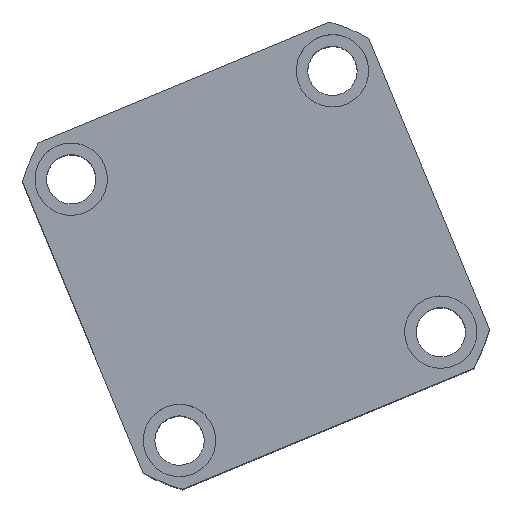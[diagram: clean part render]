
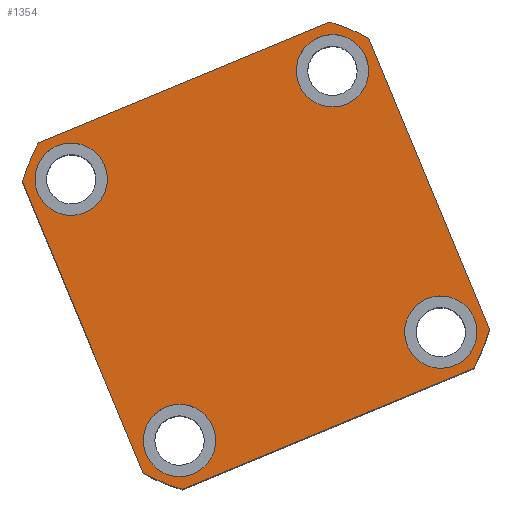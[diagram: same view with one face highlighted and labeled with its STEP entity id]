
A CAD part, top view. The second image highlights one B-rep face of the part: STEP entity #1354.
In plain terms, the highlighted planar face has unit normal (0, 0, 1) as drawn and (0, 0, -1) by its records, which use the part's own axes.
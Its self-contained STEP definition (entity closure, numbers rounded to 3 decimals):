
#281 = AXIS2_PLACEMENT_3D ( 'NONE', #3899, #12018, #5023 ) ;
#288 = DIRECTION ( 'NONE',  ( -1., 0., 0. ) ) ;
#492 = DIRECTION ( 'NONE',  ( 0., 0., -1. ) ) ;
#533 = FACE_OUTER_BOUND ( 'NONE', #6297, .T. ) ;
#764 = ORIENTED_EDGE ( 'NONE', *, *, #12416, .F. ) ;
#765 = VERTEX_POINT ( 'NONE', #9527 ) ;
#801 = DIRECTION ( 'NONE',  ( -1., 0., 0. ) ) ;
#806 = DIRECTION ( 'NONE',  ( 0., 0., -1. ) ) ;
#814 = DIRECTION ( 'NONE',  ( 0., 0., -1. ) ) ;
#898 = CARTESIAN_POINT ( 'NONE',  ( -54., 43., 0. ) ) ;
#900 = CARTESIAN_POINT ( 'NONE',  ( -43., 43., 0. ) ) ;
#1002 = DIRECTION ( 'NONE',  ( 0., 0., 1. ) ) ;
#1104 = ORIENTED_EDGE ( 'NONE', *, *, #8032, .F. ) ;
#1354 = ADVANCED_FACE ( 'NONE', ( #4062, #9809, #3688, #12980, #533 ), #11087, .F. ) ;
#1423 = AXIS2_PLACEMENT_3D ( 'NONE', #9486, #2587, #10671 ) ;
#1466 = EDGE_CURVE ( 'NONE', #7072, #5667, #5956, .T. ) ;
#1719 = VERTEX_POINT ( 'NONE', #898 ) ;
#2098 = ORIENTED_EDGE ( 'NONE', *, *, #2409, .F. ) ;
#2409 = EDGE_CURVE ( 'NONE', #1719, #12058, #11876, .T. ) ;
#2587 = DIRECTION ( 'NONE',  ( 0., 0., 1. ) ) ;
#2802 = VECTOR ( 'NONE', #10259, 1000. ) ;
#2837 = ORIENTED_EDGE ( 'NONE', *, *, #8656, .F. ) ;
#3088 = CIRCLE ( 'NONE', #8798, 11. ) ;
#3199 = ORIENTED_EDGE ( 'NONE', *, *, #1466, .F. ) ;
#3366 = ORIENTED_EDGE ( 'NONE', *, *, #6479, .F. ) ;
#3381 = EDGE_CURVE ( 'NONE', #9988, #3382, #14664, .T. ) ;
#3382 = VERTEX_POINT ( 'NONE', #7944 ) ;
#3581 = CARTESIAN_POINT ( 'NONE',  ( 47.971, 57., 0. ) ) ;
#3633 = CARTESIAN_POINT ( 'NONE',  ( -43., 43., 0. ) ) ;
#3688 = FACE_BOUND ( 'NONE', #7772, .T. ) ;
#3748 = EDGE_CURVE ( 'NONE', #7662, #9946, #9986, .T. ) ;
#3826 = EDGE_CURVE ( 'NONE', #15078, #13112, #9256, .T. ) ;
#3872 = VECTOR ( 'NONE', #11302, 1000. ) ;
#3873 = DIRECTION ( 'NONE',  ( 0., 0., -1. ) ) ;
#3899 = CARTESIAN_POINT ( 'NONE',  ( 43., -43., 0. ) ) ;
#3945 = AXIS2_PLACEMENT_3D ( 'NONE', #3633, #11746, #4773 ) ;
#3952 = AXIS2_PLACEMENT_3D ( 'NONE', #11502, #11507, #11521 ) ;
#4062 = FACE_BOUND ( 'NONE', #5453, .T. ) ;
#4171 = CARTESIAN_POINT ( 'NONE',  ( 0., 0., 0. ) ) ;
#4229 = VECTOR ( 'NONE', #12812, 1000. ) ;
#4325 = EDGE_CURVE ( 'NONE', #8094, #15078, #11478, .T. ) ;
#4367 = AXIS2_PLACEMENT_3D ( 'NONE', #6857, #6811, #6757 ) ;
#4719 = AXIS2_PLACEMENT_3D ( 'NONE', #8037, #492, #288 ) ;
#4735 = CARTESIAN_POINT ( 'NONE',  ( 0., 0., 0. ) ) ;
#4773 = DIRECTION ( 'NONE',  ( -1., 0., 0. ) ) ;
#4909 = CARTESIAN_POINT ( 'NONE',  ( -47.971, -57., 0. ) ) ;
#4929 = CIRCLE ( 'NONE', #281, 11. ) ;
#4944 = ORIENTED_EDGE ( 'NONE', *, *, #3826, .F. ) ;
#5023 = DIRECTION ( 'NONE',  ( -1., 0., 0. ) ) ;
#5203 = CIRCLE ( 'NONE', #3945, 11. ) ;
#5278 = DIRECTION ( 'NONE',  ( 1., 0., 0. ) ) ;
#5376 = CIRCLE ( 'NONE', #10374, 74.5 ) ;
#5453 = EDGE_LOOP ( 'NONE', ( #9107, #8359 ) ) ;
#5667 = VERTEX_POINT ( 'NONE', #10336 ) ;
#5849 = DIRECTION ( 'NONE',  ( 1., 0., 0. ) ) ;
#5925 = VERTEX_POINT ( 'NONE', #4909 ) ;
#5956 = CIRCLE ( 'NONE', #8536, 11. ) ;
#6151 = ORIENTED_EDGE ( 'NONE', *, *, #6634, .F. ) ;
#6297 = EDGE_LOOP ( 'NONE', ( #6768, #2837, #1104, #8102, #11694, #8481, #6151, #4944 ) ) ;
#6479 = EDGE_CURVE ( 'NONE', #5667, #7072, #3088, .T. ) ;
#6582 = CARTESIAN_POINT ( 'NONE',  ( 57., -47.971, 0. ) ) ;
#6634 = EDGE_CURVE ( 'NONE', #13112, #7662, #5376, .T. ) ;
#6757 = DIRECTION ( 'NONE',  ( -1., 0., 0. ) ) ;
#6768 = ORIENTED_EDGE ( 'NONE', *, *, #4325, .F. ) ;
#6811 = DIRECTION ( 'NONE',  ( 0., 0., -1. ) ) ;
#6857 = CARTESIAN_POINT ( 'NONE',  ( -43., -43., 0. ) ) ;
#6861 = EDGE_CURVE ( 'NONE', #9946, #5925, #7330, .T. ) ;
#6944 = CARTESIAN_POINT ( 'NONE',  ( -57., -47.971, 0. ) ) ;
#7072 = VERTEX_POINT ( 'NONE', #13057 ) ;
#7330 = CIRCLE ( 'NONE', #11806, 74.5 ) ;
#7662 = VERTEX_POINT ( 'NONE', #14454 ) ;
#7739 = CARTESIAN_POINT ( 'NONE',  ( -43., -43., 0. ) ) ;
#7772 = EDGE_LOOP ( 'NONE', ( #3366, #3199 ) ) ;
#7926 = CARTESIAN_POINT ( 'NONE',  ( 0., 0., 0. ) ) ;
#7944 = CARTESIAN_POINT ( 'NONE',  ( -32., -43., 0. ) ) ;
#8032 = EDGE_CURVE ( 'NONE', #12001, #8067, #11792, .T. ) ;
#8037 = CARTESIAN_POINT ( 'NONE',  ( 43., -43., 0. ) ) ;
#8067 = VERTEX_POINT ( 'NONE', #6582 ) ;
#8094 = VERTEX_POINT ( 'NONE', #11593 ) ;
#8102 = ORIENTED_EDGE ( 'NONE', *, *, #13436, .F. ) ;
#8134 = EDGE_CURVE ( 'NONE', #12058, #1719, #5203, .T. ) ;
#8279 = ORIENTED_EDGE ( 'NONE', *, *, #8134, .F. ) ;
#8359 = ORIENTED_EDGE ( 'NONE', *, *, #9425, .F. ) ;
#8481 = ORIENTED_EDGE ( 'NONE', *, *, #3748, .F. ) ;
#8536 = AXIS2_PLACEMENT_3D ( 'NONE', #12183, #12200, #12214 ) ;
#8656 = EDGE_CURVE ( 'NONE', #8067, #8094, #12739, .T. ) ;
#8657 = VERTEX_POINT ( 'NONE', #11323 ) ;
#8748 = AXIS2_PLACEMENT_3D ( 'NONE', #900, #814, #801 ) ;
#8769 = CARTESIAN_POINT ( 'NONE',  ( -47.971, 57., 0. ) ) ;
#8798 = AXIS2_PLACEMENT_3D ( 'NONE', #10793, #3873, #11993 ) ;
#8918 = DIRECTION ( 'NONE',  ( -1., 0., 0. ) ) ;
#8983 = DIRECTION ( 'NONE',  ( 0., 1., 0. ) ) ;
#9104 = DIRECTION ( 'NONE',  ( 1., 0., 0. ) ) ;
#9107 = ORIENTED_EDGE ( 'NONE', *, *, #3381, .F. ) ;
#9123 = CARTESIAN_POINT ( 'NONE',  ( -32., 43., 0. ) ) ;
#9256 = LINE ( 'NONE', #11511, #3872 ) ;
#9425 = EDGE_CURVE ( 'NONE', #3382, #9988, #14584, .T. ) ;
#9486 = CARTESIAN_POINT ( 'NONE',  ( 0., 0., 0. ) ) ;
#9527 = CARTESIAN_POINT ( 'NONE',  ( 54., -43., 0. ) ) ;
#9555 = VECTOR ( 'NONE', #8983, 1000. ) ;
#9809 = FACE_BOUND ( 'NONE', #12960, .T. ) ;
#9946 = VERTEX_POINT ( 'NONE', #6944 ) ;
#9986 = LINE ( 'NONE', #13596, #4229 ) ;
#9988 = VERTEX_POINT ( 'NONE', #14159 ) ;
#10259 = DIRECTION ( 'NONE',  ( 1., 0., 0. ) ) ;
#10336 = CARTESIAN_POINT ( 'NONE',  ( 32., 43., 0. ) ) ;
#10374 = AXIS2_PLACEMENT_3D ( 'NONE', #4171, #12305, #5278 ) ;
#10671 = DIRECTION ( 'NONE',  ( 1., 0., 0. ) ) ;
#10793 = CARTESIAN_POINT ( 'NONE',  ( 43., 43., 0. ) ) ;
#11087 = PLANE ( 'NONE',  #3952 ) ;
#11302 = DIRECTION ( 'NONE',  ( -1., 0., 0. ) ) ;
#11323 = CARTESIAN_POINT ( 'NONE',  ( 32., -43., 0. ) ) ;
#11464 = CARTESIAN_POINT ( 'NONE',  ( -57., -57., 0. ) ) ;
#11478 = CIRCLE ( 'NONE', #1423, 74.5 ) ;
#11502 = CARTESIAN_POINT ( 'NONE',  ( 0., 0., 0. ) ) ;
#11507 = DIRECTION ( 'NONE',  ( 0., 0., 1. ) ) ;
#11511 = CARTESIAN_POINT ( 'NONE',  ( -57., 57., 0. ) ) ;
#11521 = DIRECTION ( 'NONE',  ( 1., 0., 0. ) ) ;
#11560 = ORIENTED_EDGE ( 'NONE', *, *, #12894, .F. ) ;
#11593 = CARTESIAN_POINT ( 'NONE',  ( 57., 47.971, 0. ) ) ;
#11694 = ORIENTED_EDGE ( 'NONE', *, *, #6861, .F. ) ;
#11746 = DIRECTION ( 'NONE',  ( 0., 0., -1. ) ) ;
#11792 = CIRCLE ( 'NONE', #14408, 74.5 ) ;
#11806 = AXIS2_PLACEMENT_3D ( 'NONE', #4735, #12905, #5849 ) ;
#11876 = CIRCLE ( 'NONE', #8748, 11. ) ;
#11993 = DIRECTION ( 'NONE',  ( -1., 0., 0. ) ) ;
#12001 = VERTEX_POINT ( 'NONE', #13758 ) ;
#12018 = DIRECTION ( 'NONE',  ( 0., 0., -1. ) ) ;
#12058 = VERTEX_POINT ( 'NONE', #9123 ) ;
#12060 = LINE ( 'NONE', #11464, #2802 ) ;
#12183 = CARTESIAN_POINT ( 'NONE',  ( 43., 43., 0. ) ) ;
#12200 = DIRECTION ( 'NONE',  ( 0., 0., -1. ) ) ;
#12214 = DIRECTION ( 'NONE',  ( -1., 0., 0. ) ) ;
#12265 = CIRCLE ( 'NONE', #4719, 11. ) ;
#12305 = DIRECTION ( 'NONE',  ( 0., 0., 1. ) ) ;
#12416 = EDGE_CURVE ( 'NONE', #765, #8657, #4929, .T. ) ;
#12730 = AXIS2_PLACEMENT_3D ( 'NONE', #7739, #806, #8918 ) ;
#12739 = LINE ( 'NONE', #13713, #9555 ) ;
#12812 = DIRECTION ( 'NONE',  ( 0., -1., 0. ) ) ;
#12894 = EDGE_CURVE ( 'NONE', #8657, #765, #12265, .T. ) ;
#12905 = DIRECTION ( 'NONE',  ( 0., 0., 1. ) ) ;
#12960 = EDGE_LOOP ( 'NONE', ( #11560, #764 ) ) ;
#12980 = FACE_BOUND ( 'NONE', #13711, .T. ) ;
#13057 = CARTESIAN_POINT ( 'NONE',  ( 54., 43., 0. ) ) ;
#13112 = VERTEX_POINT ( 'NONE', #8769 ) ;
#13436 = EDGE_CURVE ( 'NONE', #5925, #12001, #12060, .T. ) ;
#13596 = CARTESIAN_POINT ( 'NONE',  ( -57., 57., 0. ) ) ;
#13711 = EDGE_LOOP ( 'NONE', ( #2098, #8279 ) ) ;
#13713 = CARTESIAN_POINT ( 'NONE',  ( 57., 57., 0. ) ) ;
#13758 = CARTESIAN_POINT ( 'NONE',  ( 47.971, -57., 0. ) ) ;
#14159 = CARTESIAN_POINT ( 'NONE',  ( -54., -43., 0. ) ) ;
#14408 = AXIS2_PLACEMENT_3D ( 'NONE', #7926, #1002, #9104 ) ;
#14454 = CARTESIAN_POINT ( 'NONE',  ( -57., 47.971, 0. ) ) ;
#14584 = CIRCLE ( 'NONE', #12730, 11. ) ;
#14664 = CIRCLE ( 'NONE', #4367, 11. ) ;
#15078 = VERTEX_POINT ( 'NONE', #3581 ) ;
